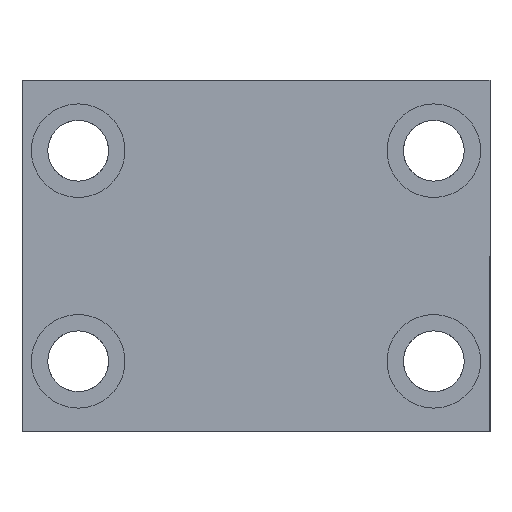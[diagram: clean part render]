
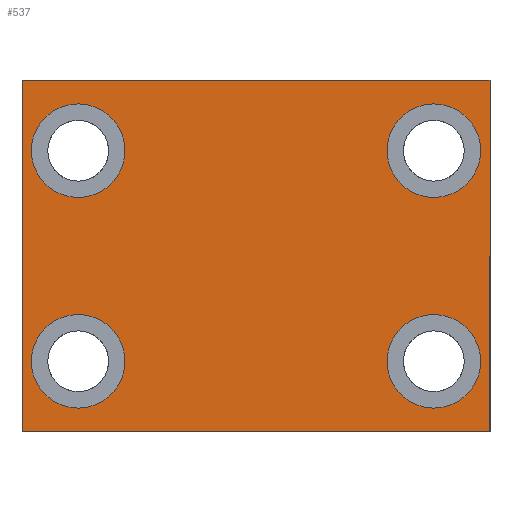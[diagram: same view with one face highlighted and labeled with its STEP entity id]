
A CAD part, front view. The second image highlights one B-rep face of the part: STEP entity #537.
In plain terms, the highlighted planar face has unit normal (0, -1, 0).
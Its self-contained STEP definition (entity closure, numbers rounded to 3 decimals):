
#30 = ORIENTED_EDGE ( 'NONE', *, *, #1754, .F. ) ;
#95 = LINE ( 'NONE', #3803, #2642 ) ;
#151 = CIRCLE ( 'NONE', #412, 10. ) ;
#191 = FACE_BOUND ( 'NONE', #357, .T. ) ;
#213 = EDGE_CURVE ( 'NONE', #2485, #1744, #351, .T. ) ;
#233 = CARTESIAN_POINT ( 'NONE',  ( -50., 0., 37.5 ) ) ;
#238 = CARTESIAN_POINT ( 'NONE',  ( 0., 0., 0. ) ) ;
#259 = EDGE_LOOP ( 'NONE', ( #2253, #416 ) ) ;
#275 = CIRCLE ( 'NONE', #1314, 10. ) ;
#351 = CIRCLE ( 'NONE', #1903, 10. ) ;
#357 = EDGE_LOOP ( 'NONE', ( #1538, #1798 ) ) ;
#406 = DIRECTION ( 'NONE',  ( 0., 0., -1. ) ) ;
#412 = AXIS2_PLACEMENT_3D ( 'NONE', #970, #3183, #1290 ) ;
#416 = ORIENTED_EDGE ( 'NONE', *, *, #2346, .F. ) ;
#515 = CARTESIAN_POINT ( 'NONE',  ( -38., 0., 12.5 ) ) ;
#516 = EDGE_CURVE ( 'NONE', #1649, #856, #1978, .T. ) ;
#537 = ADVANCED_FACE ( 'NONE', ( #191, #3647, #2819, #3543, #2718 ), #1931, .F. ) ;
#554 = CARTESIAN_POINT ( 'NONE',  ( 50., 0., -37.5 ) ) ;
#562 = CARTESIAN_POINT ( 'NONE',  ( 38., 0., 12.5 ) ) ;
#578 = DIRECTION ( 'NONE',  ( 0., 0., -1. ) ) ;
#589 = EDGE_CURVE ( 'NONE', #2888, #1688, #894, .T. ) ;
#594 = VERTEX_POINT ( 'NONE', #3435 ) ;
#709 = VECTOR ( 'NONE', #2542, 1000. ) ;
#755 = AXIS2_PLACEMENT_3D ( 'NONE', #3034, #1127, #3347 ) ;
#761 = CARTESIAN_POINT ( 'NONE',  ( 38., 0., 22.5 ) ) ;
#767 = DIRECTION ( 'NONE',  ( 0., 0., -1. ) ) ;
#856 = VERTEX_POINT ( 'NONE', #2058 ) ;
#894 = LINE ( 'NONE', #2834, #2521 ) ;
#930 = CARTESIAN_POINT ( 'NONE',  ( -38., 0., 22.5 ) ) ;
#970 = CARTESIAN_POINT ( 'NONE',  ( -38., 0., -22.5 ) ) ;
#973 = ORIENTED_EDGE ( 'NONE', *, *, #2988, .F. ) ;
#1061 = AXIS2_PLACEMENT_3D ( 'NONE', #238, #1584, #3472 ) ;
#1127 = DIRECTION ( 'NONE',  ( 0., -1., 0. ) ) ;
#1176 = CARTESIAN_POINT ( 'NONE',  ( -50., 0., -37.5 ) ) ;
#1290 = DIRECTION ( 'NONE',  ( 0., 0., -1. ) ) ;
#1303 = CARTESIAN_POINT ( 'NONE',  ( 38., 0., -12.5 ) ) ;
#1314 = AXIS2_PLACEMENT_3D ( 'NONE', #2847, #2836, #2529 ) ;
#1366 = DIRECTION ( 'NONE',  ( 0., -1., 0. ) ) ;
#1367 = EDGE_LOOP ( 'NONE', ( #2028, #973 ) ) ;
#1538 = ORIENTED_EDGE ( 'NONE', *, *, #4003, .F. ) ;
#1553 = CIRCLE ( 'NONE', #755, 10. ) ;
#1584 = DIRECTION ( 'NONE',  ( 0., 1., 0. ) ) ;
#1601 = AXIS2_PLACEMENT_3D ( 'NONE', #3691, #1807, #4013 ) ;
#1616 = CIRCLE ( 'NONE', #3842, 10. ) ;
#1649 = VERTEX_POINT ( 'NONE', #515 ) ;
#1688 = VERTEX_POINT ( 'NONE', #554 ) ;
#1706 = CARTESIAN_POINT ( 'NONE',  ( 50., 0., 37.5 ) ) ;
#1744 = VERTEX_POINT ( 'NONE', #562 ) ;
#1754 = EDGE_CURVE ( 'NONE', #2725, #2888, #4039, .T. ) ;
#1798 = ORIENTED_EDGE ( 'NONE', *, *, #3470, .F. ) ;
#1807 = DIRECTION ( 'NONE',  ( 0., -1., 0. ) ) ;
#1901 = ORIENTED_EDGE ( 'NONE', *, *, #2161, .F. ) ;
#1903 = AXIS2_PLACEMENT_3D ( 'NONE', #761, #2705, #406 ) ;
#1931 = PLANE ( 'NONE',  #1061 ) ;
#1934 = CARTESIAN_POINT ( 'NONE',  ( -50., 0., -37.5 ) ) ;
#1978 = CIRCLE ( 'NONE', #2871, 10. ) ;
#2028 = ORIENTED_EDGE ( 'NONE', *, *, #516, .F. ) ;
#2032 = CARTESIAN_POINT ( 'NONE',  ( -50., 0., 37.5 ) ) ;
#2058 = CARTESIAN_POINT ( 'NONE',  ( -38., 0., 32.5 ) ) ;
#2095 = VERTEX_POINT ( 'NONE', #1303 ) ;
#2135 = EDGE_LOOP ( 'NONE', ( #4065, #30, #2390, #3819 ) ) ;
#2161 = EDGE_CURVE ( 'NONE', #1744, #2485, #1616, .T. ) ;
#2208 = LINE ( 'NONE', #1176, #3672 ) ;
#2253 = ORIENTED_EDGE ( 'NONE', *, *, #2657, .F. ) ;
#2346 = EDGE_CURVE ( 'NONE', #2095, #594, #3627, .T. ) ;
#2390 = ORIENTED_EDGE ( 'NONE', *, *, #3292, .F. ) ;
#2485 = VERTEX_POINT ( 'NONE', #3118 ) ;
#2521 = VECTOR ( 'NONE', #3128, 1000. ) ;
#2529 = DIRECTION ( 'NONE',  ( 0., 0., -1. ) ) ;
#2533 = VERTEX_POINT ( 'NONE', #1934 ) ;
#2542 = DIRECTION ( 'NONE',  ( 1., 0., 0. ) ) ;
#2642 = VECTOR ( 'NONE', #3483, 1000. ) ;
#2657 = EDGE_CURVE ( 'NONE', #594, #2095, #1553, .T. ) ;
#2705 = DIRECTION ( 'NONE',  ( 0., -1., 0. ) ) ;
#2718 = FACE_OUTER_BOUND ( 'NONE', #2135, .T. ) ;
#2725 = VERTEX_POINT ( 'NONE', #2032 ) ;
#2819 = FACE_BOUND ( 'NONE', #2826, .T. ) ;
#2826 = EDGE_LOOP ( 'NONE', ( #1901, #2850 ) ) ;
#2834 = CARTESIAN_POINT ( 'NONE',  ( 50., 0., -37.5 ) ) ;
#2836 = DIRECTION ( 'NONE',  ( 0., -1., 0. ) ) ;
#2847 = CARTESIAN_POINT ( 'NONE',  ( -38., 0., -22.5 ) ) ;
#2850 = ORIENTED_EDGE ( 'NONE', *, *, #213, .F. ) ;
#2862 = DIRECTION ( 'NONE',  ( 0., -1., 0. ) ) ;
#2871 = AXIS2_PLACEMENT_3D ( 'NONE', #930, #2862, #578 ) ;
#2888 = VERTEX_POINT ( 'NONE', #1706 ) ;
#2971 = CIRCLE ( 'NONE', #3474, 10. ) ;
#2988 = EDGE_CURVE ( 'NONE', #856, #1649, #2971, .T. ) ;
#3009 = DIRECTION ( 'NONE',  ( 0., -1., 0. ) ) ;
#3034 = CARTESIAN_POINT ( 'NONE',  ( 38., 0., -22.5 ) ) ;
#3118 = CARTESIAN_POINT ( 'NONE',  ( 38., 0., 32.5 ) ) ;
#3128 = DIRECTION ( 'NONE',  ( 0., 0., -1. ) ) ;
#3183 = DIRECTION ( 'NONE',  ( 0., -1., 0. ) ) ;
#3232 = EDGE_CURVE ( 'NONE', #1688, #2533, #2208, .T. ) ;
#3245 = VERTEX_POINT ( 'NONE', #4135 ) ;
#3249 = CARTESIAN_POINT ( 'NONE',  ( 38., 0., 22.5 ) ) ;
#3292 = EDGE_CURVE ( 'NONE', #2533, #2725, #95, .T. ) ;
#3347 = DIRECTION ( 'NONE',  ( 0., 0., -1. ) ) ;
#3435 = CARTESIAN_POINT ( 'NONE',  ( 38., 0., -32.5 ) ) ;
#3470 = EDGE_CURVE ( 'NONE', #3613, #3245, #275, .T. ) ;
#3472 = DIRECTION ( 'NONE',  ( 0., 0., 1. ) ) ;
#3474 = AXIS2_PLACEMENT_3D ( 'NONE', #3950, #3009, #767 ) ;
#3483 = DIRECTION ( 'NONE',  ( 0., 0., 1. ) ) ;
#3543 = FACE_BOUND ( 'NONE', #1367, .T. ) ;
#3589 = DIRECTION ( 'NONE',  ( 0., 0., -1. ) ) ;
#3613 = VERTEX_POINT ( 'NONE', #3976 ) ;
#3627 = CIRCLE ( 'NONE', #1601, 10. ) ;
#3647 = FACE_BOUND ( 'NONE', #259, .T. ) ;
#3672 = VECTOR ( 'NONE', #3716, 1000. ) ;
#3691 = CARTESIAN_POINT ( 'NONE',  ( 38., 0., -22.5 ) ) ;
#3716 = DIRECTION ( 'NONE',  ( -1., 0., 0. ) ) ;
#3803 = CARTESIAN_POINT ( 'NONE',  ( -50., 0., -37.5 ) ) ;
#3819 = ORIENTED_EDGE ( 'NONE', *, *, #3232, .F. ) ;
#3842 = AXIS2_PLACEMENT_3D ( 'NONE', #3249, #1366, #3589 ) ;
#3950 = CARTESIAN_POINT ( 'NONE',  ( -38., 0., 22.5 ) ) ;
#3976 = CARTESIAN_POINT ( 'NONE',  ( -38., 0., -12.5 ) ) ;
#4003 = EDGE_CURVE ( 'NONE', #3245, #3613, #151, .T. ) ;
#4013 = DIRECTION ( 'NONE',  ( 0., 0., -1. ) ) ;
#4039 = LINE ( 'NONE', #233, #709 ) ;
#4065 = ORIENTED_EDGE ( 'NONE', *, *, #589, .F. ) ;
#4135 = CARTESIAN_POINT ( 'NONE',  ( -38., 0., -32.5 ) ) ;
